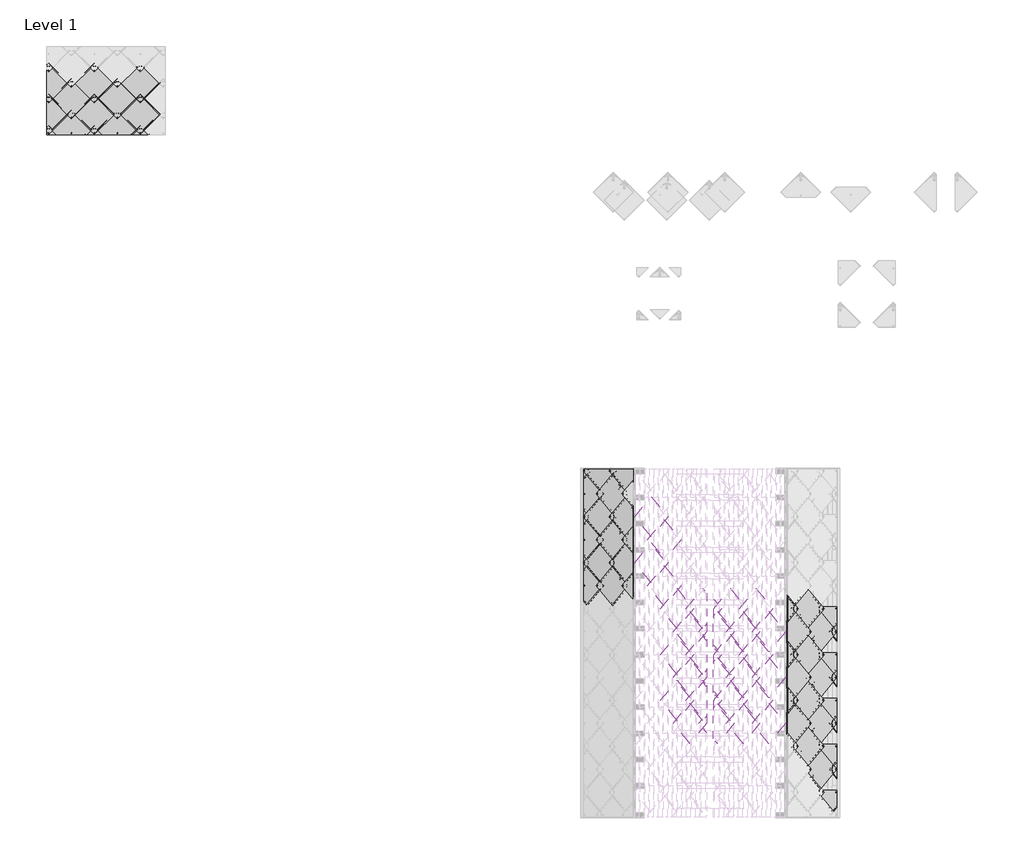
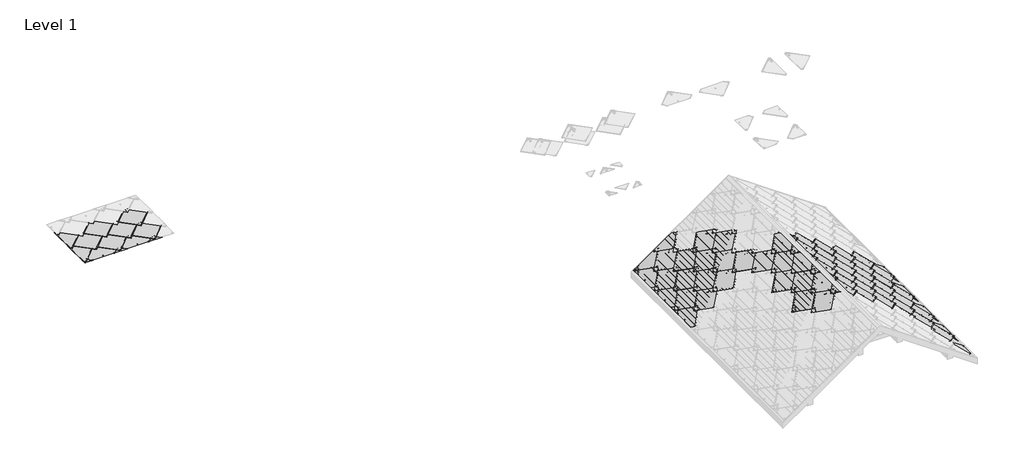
# One storey, part 5 of 6: 87 proxies.
"""IFC4 building model written with IfcOpenShell, lengths in millimetres."""

from ifc_helpers import new_model, si_unit, origin, place, context, project, spatial, transform, mapped, element, save
from components import generic_models_167ef6fe, corner_bottom_big_right_black_f07d85a3, corner_bottom_small_left_black_13c94d74, roofing_panels_sunstyle_tile_non_pv_shingle_non_pv_shingle_39b62107, roofing_panels_sunstyle_tile_shingle_bottom_shingle_bottom_b4a41e6e, roofing_panels_sunstyle_tile_shingle_bottom_small_shingle_441e44e2, roofing_panels_sunstyle_tile_shingle_left_shingle_left_black_68cb1fd1, roofing_panels_sunstyle_tile_shingle_top_shingle_top_black_3c2a6519, roofing_panels_sunstyle_tile_shingle_top_small_shingle_top_f7f51557

model = new_model("IFC4")

# Units and contexts
model_context = context("Model", 3, world=origin())
ifc_project = project(units=[si_unit("LENGTHUNIT", "METRE", prefix="MILLI")], contexts=[model_context])

# Site, building, storey
site = spatial("IfcSite", under=ifc_project)
building = spatial("IfcBuilding", under=site)
storey = spatial("IfcBuildingStorey", under=building, Name="Level 1", Elevation=0.0)

# Proxies
placement = place(None, origin())
generic_models_shape = generic_models_167ef6fe(model_context)
element("IfcBuildingElementProxy", 1, Name="Roofing_Solar-Panels_SunStyle_Shingle-Sunstyle : Shingle Sunstyle - Black", ObjectType="Roofing_Solar-Panels_SunStyle_Shingle-Sunstyle : Shingle Sunstyle - Black", at=placement, inside=storey, context=model_context, shape_type="MappedRepresentation", body=[
    mapped(generic_models_shape, transform((-1750.3642228, 3164.5951942, 759.9054535), x_axis=(0.0, -1.0, 0.0), y_axis=(0.8191520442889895, 0.0, 0.5735764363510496), z_axis=(-0.5735764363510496, 0.0, 0.8191520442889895))),
])
element("IfcBuildingElementProxy", 2, Name="Roofing_Solar-Panels_SunStyle_Shingle-Sunstyle : Shingle Sunstyle - Black", ObjectType="Roofing_Solar-Panels_SunStyle_Shingle-Sunstyle : Shingle Sunstyle - Black", at=placement, inside=storey, context=model_context, shape_type="MappedRepresentation", body=[
    mapped(generic_models_shape, transform((-1359.2191216, 2464.0951942, 1033.7882019), x_axis=(0.0, -1.0, 0.0), y_axis=(0.8191520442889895, 0.0, 0.5735764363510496), z_axis=(-0.5735764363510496, 0.0, 0.8191520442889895))),
])
element("IfcBuildingElementProxy", 3, Name="Roofing_Solar-Panels_SunStyle_Shingle-Sunstyle : Shingle Sunstyle - Black", ObjectType="Roofing_Solar-Panels_SunStyle_Shingle-Sunstyle : Shingle Sunstyle - Black", at=placement, inside=storey, context=model_context, shape_type="MappedRepresentation", body=[
    mapped(generic_models_shape, transform((-185.7838182, 1763.5951942, 1855.4364469), x_axis=(0.0, -1.0, 0.0), y_axis=(0.8191520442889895, 0.0, 0.5735764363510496), z_axis=(-0.5735764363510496, 0.0, 0.8191520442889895))),
])
element("IfcBuildingElementProxy", 4, Name="Roofing_Solar-Panels_SunStyle_Shingle-Sunstyle : Shingle Sunstyle - Black", ObjectType="Roofing_Solar-Panels_SunStyle_Shingle-Sunstyle : Shingle Sunstyle - Black", at=placement, inside=storey, context=model_context, shape_type="MappedRepresentation", body=[
    mapped(generic_models_shape, transform((-968.0740205, 1763.5951942, 1307.6709502), x_axis=(0.0, -1.0, 0.0), y_axis=(0.8191520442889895, 0.0, 0.5735764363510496), z_axis=(-0.5735764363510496, 0.0, 0.8191520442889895))),
])
element("IfcBuildingElementProxy", 5, Name="Roofing_Solar-Panels_SunStyle_Shingle-Sunstyle : Shingle Sunstyle - Black", ObjectType="Roofing_Solar-Panels_SunStyle_Shingle-Sunstyle : Shingle Sunstyle - Black", at=placement, inside=storey, context=model_context, shape_type="MappedRepresentation", body=[
    mapped(generic_models_shape, transform((-1750.3642228, 1763.5951942, 759.9054535), x_axis=(0.0, -1.0, 0.0), y_axis=(0.8191520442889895, 0.0, 0.5735764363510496), z_axis=(-0.5735764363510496, 0.0, 0.8191520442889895))),
])
element("IfcBuildingElementProxy", 6, Name="Roofing_Solar-Panels_SunStyle_Shingle-Sunstyle : Shingle Sunstyle - Black", ObjectType="Roofing_Solar-Panels_SunStyle_Shingle-Sunstyle : Shingle Sunstyle - Black", at=placement, inside=storey, context=model_context, shape_type="MappedRepresentation", body=[
    mapped(generic_models_shape, transform((-1359.2191216, 1063.0951942, 1033.7882019), x_axis=(0.0, -1.0, 0.0), y_axis=(0.8191520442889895, 0.0, 0.5735764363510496), z_axis=(-0.5735764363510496, 0.0, 0.8191520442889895))),
])
element("IfcBuildingElementProxy", 7, Name="Roofing_Solar-Panels_SunStyle_Shingle-Sunstyle : Shingle Sunstyle - Black", ObjectType="Roofing_Solar-Panels_SunStyle_Shingle-Sunstyle : Shingle Sunstyle - Black", at=placement, inside=storey, context=model_context, shape_type="MappedRepresentation", body=[
    mapped(generic_models_shape, transform((-576.9289193, 2464.0951942, 1581.5536986), x_axis=(0.0, -1.0, 0.0), y_axis=(0.8191520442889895, 0.0, 0.5735764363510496), z_axis=(-0.5735764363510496, 0.0, 0.8191520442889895))),
])
element("IfcBuildingElementProxy", 8, Name="Roofing_Solar-Panels_SunStyle_Shingle-Sunstyle : Shingle Sunstyle - Black", ObjectType="Roofing_Solar-Panels_SunStyle_Shingle-Sunstyle : Shingle Sunstyle - Black", at=placement, inside=storey, context=model_context, shape_type="MappedRepresentation", body=[
    mapped(generic_models_shape, transform((-576.9289193, 1063.0951942, 1581.5536986), x_axis=(0.0, -1.0, 0.0), y_axis=(0.8191520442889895, 0.0, 0.5735764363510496), z_axis=(-0.5735764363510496, 0.0, 0.8191520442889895))),
])
element("IfcBuildingElementProxy", 9, Name="Roofing_Solar-Panels_SunStyle_Shingle-Sunstyle : Shingle Sunstyle - Black", ObjectType="Roofing_Solar-Panels_SunStyle_Shingle-Sunstyle : Shingle Sunstyle - Black", at=placement, inside=storey, context=model_context, shape_type="MappedRepresentation", body=[
    mapped(generic_models_shape, transform((-185.7838182, 362.5951942, 1855.4364469), x_axis=(0.0, -1.0, 0.0), y_axis=(0.8191520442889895, 0.0, 0.5735764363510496), z_axis=(-0.5735764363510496, 0.0, 0.8191520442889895))),
])
element("IfcBuildingElementProxy", 10, Name="Roofing_Solar-Panels_SunStyle_Shingle-Sunstyle : Shingle Sunstyle - Black", ObjectType="Roofing_Solar-Panels_SunStyle_Shingle-Sunstyle : Shingle Sunstyle - Black", at=placement, inside=storey, context=model_context, shape_type="MappedRepresentation", body=[
    mapped(generic_models_shape, transform((-968.0740205, 362.5951942, 1307.6709502), x_axis=(0.0, -1.0, 0.0), y_axis=(0.8191520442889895, 0.0, 0.5735764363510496), z_axis=(-0.5735764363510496, 0.0, 0.8191520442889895))),
])
element("IfcBuildingElementProxy", 11, Name="Roofing_Solar-Panels_SunStyle_Shingle-Sunstyle : Shingle Sunstyle - Black", ObjectType="Roofing_Solar-Panels_SunStyle_Shingle-Sunstyle : Shingle Sunstyle - Black", at=placement, inside=storey, context=model_context, shape_type="MappedRepresentation", body=[
    mapped(generic_models_shape, transform((-1750.3642228, 362.5951942, 759.9054535), x_axis=(0.0, -1.0, 0.0), y_axis=(0.8191520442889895, 0.0, 0.5735764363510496), z_axis=(-0.5735764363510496, 0.0, 0.8191520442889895))),
])
element("IfcBuildingElementProxy", 12, Name="Roofing_Solar-Panels_SunStyle_Shingle-Sunstyle : Shingle Sunstyle - Black", ObjectType="Roofing_Solar-Panels_SunStyle_Shingle-Sunstyle : Shingle Sunstyle - Black", at=placement, inside=storey, context=model_context, shape_type="MappedRepresentation", body=[
    mapped(generic_models_shape, transform((205.361283, -337.9048058, 2129.3191953), x_axis=(0.0, -1.0, 0.0), y_axis=(0.8191520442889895, 0.0, 0.5735764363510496), z_axis=(-0.5735764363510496, 0.0, 0.8191520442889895))),
])
element("IfcBuildingElementProxy", 13, Name="Roofing_Solar-Panels_SunStyle_Shingle-Sunstyle : Shingle Sunstyle - Black", ObjectType="Roofing_Solar-Panels_SunStyle_Shingle-Sunstyle : Shingle Sunstyle - Black", at=placement, inside=storey, context=model_context, shape_type="MappedRepresentation", body=[
    mapped(generic_models_shape, transform((596.5063841, -1038.4048058, 2403.2019437), x_axis=(0.0, -1.0, 0.0), y_axis=(0.8191520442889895, 0.0, 0.5735764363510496), z_axis=(-0.5735764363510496, 0.0, 0.8191520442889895))),
])
element("IfcBuildingElementProxy", 14, Name="Roofing_Solar-Panels_SunStyle_Shingle-Sunstyle : Shingle Sunstyle - Black", ObjectType="Roofing_Solar-Panels_SunStyle_Shingle-Sunstyle : Shingle Sunstyle - Black", at=placement, inside=storey, context=model_context, shape_type="MappedRepresentation", body=[
    mapped(generic_models_shape, transform((596.5063841, -2439.4048058, 2403.2019437), x_axis=(0.0, -1.0, 0.0), y_axis=(0.8191520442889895, 0.0, 0.5735764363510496), z_axis=(-0.5735764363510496, 0.0, 0.8191520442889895))),
])
element("IfcBuildingElementProxy", 15, Name="Roofing_Solar-Panels_SunStyle_Shingle-Sunstyle : Shingle Sunstyle - Black", ObjectType="Roofing_Solar-Panels_SunStyle_Shingle-Sunstyle : Shingle Sunstyle - Black", at=placement, inside=storey, context=model_context, shape_type="MappedRepresentation", body=[
    mapped(generic_models_shape, transform((205.361283, -1738.9048058, 2129.3191953), x_axis=(0.0, -1.0, 0.0), y_axis=(0.8191520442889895, 0.0, 0.5735764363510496), z_axis=(-0.5735764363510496, 0.0, 0.8191520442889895))),
])
element("IfcBuildingElementProxy", 16, Name="Roofing_Solar-Panels_SunStyle_Shingle-Sunstyle : Shingle Sunstyle - Black", ObjectType="Roofing_Solar-Panels_SunStyle_Shingle-Sunstyle : Shingle Sunstyle - Black", at=placement, inside=storey, context=model_context, shape_type="MappedRepresentation", body=[
    mapped(generic_models_shape, transform((205.361283, -3139.9048058, 2129.3191953), x_axis=(0.0, -1.0, 0.0), y_axis=(0.8191520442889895, 0.0, 0.5735764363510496), z_axis=(-0.5735764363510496, 0.0, 0.8191520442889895))),
])
element("IfcBuildingElementProxy", 17, Name="Roofing_Solar-Panels_SunStyle_Shingle-Sunstyle : Shingle Sunstyle - Black", ObjectType="Roofing_Solar-Panels_SunStyle_Shingle-Sunstyle : Shingle Sunstyle - Black", at=placement, inside=storey, context=model_context, shape_type="MappedRepresentation", body=[
    mapped(generic_models_shape, transform((596.5063841, -3840.4048058, 2403.2019437), x_axis=(0.0, -1.0, 0.0), y_axis=(0.8191520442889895, 0.0, 0.5735764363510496), z_axis=(-0.5735764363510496, 0.0, 0.8191520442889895))),
])
element("IfcBuildingElementProxy", 18, Name="Roofing_Solar-Panels_SunStyle_Shingle-Sunstyle : Shingle Sunstyle - Black", ObjectType="Roofing_Solar-Panels_SunStyle_Shingle-Sunstyle : Shingle Sunstyle - Black", at=placement, inside=storey, context=model_context, shape_type="MappedRepresentation", body=[
    mapped(generic_models_shape, transform((-2141.5093239, 1063.0951942, 486.0227052), x_axis=(0.0, -1.0, 0.0), y_axis=(0.8191520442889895, 0.0, 0.5735764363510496), z_axis=(-0.5735764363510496, 0.0, 0.8191520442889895))),
])
element("IfcBuildingElementProxy", 19, Name="Roofing_Solar-Panels_SunStyle_Shingle-Sunstyle : Shingle Sunstyle - Black", ObjectType="Roofing_Solar-Panels_SunStyle_Shingle-Sunstyle : Shingle Sunstyle - Black", at=placement, inside=storey, context=model_context, shape_type="MappedRepresentation", body=[
    mapped(generic_models_shape, transform((-2141.5093239, 2464.0951942, 486.0227052), x_axis=(0.0, -1.0, 0.0), y_axis=(0.8191520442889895, 0.0, 0.5735764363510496), z_axis=(-0.5735764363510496, 0.0, 0.8191520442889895))),
])
element("IfcBuildingElementProxy", 20, Name="Roofing_Solar-Panels_SunStyle_Shingle-Sunstyle : Shingle Sunstyle - Black", ObjectType="Roofing_Solar-Panels_SunStyle_Shingle-Sunstyle : Shingle Sunstyle - Black", at=placement, inside=storey, context=model_context, shape_type="MappedRepresentation", body=[
    mapped(generic_models_shape, transform((1817.0514304, -3139.9048058, 2403.2019437), x_axis=(0.0, 1.0, 0.0), y_axis=(-0.8191520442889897, 0.0, 0.5735764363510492), z_axis=(0.5735764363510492, 0.0, 0.8191520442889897))),
])
element("IfcBuildingElementProxy", 21, Name="Roofing_Solar-Panels_SunStyle_Shingle-Sunstyle : Shingle Sunstyle - Black", ObjectType="Roofing_Solar-Panels_SunStyle_Shingle-Sunstyle : Shingle Sunstyle - Black", at=placement, inside=storey, context=model_context, shape_type="MappedRepresentation", body=[
    mapped(generic_models_shape, transform((1817.0514304, -1738.9048058, 2403.2019437), x_axis=(0.0, 1.0, 0.0), y_axis=(-0.8191520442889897, 0.0, 0.5735764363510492), z_axis=(0.5735764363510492, 0.0, 0.8191520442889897))),
])
element("IfcBuildingElementProxy", 22, Name="Roofing_Solar-Panels_SunStyle_Shingle-Sunstyle : Shingle Sunstyle - Black", ObjectType="Roofing_Solar-Panels_SunStyle_Shingle-Sunstyle : Shingle Sunstyle - Black", at=placement, inside=storey, context=model_context, shape_type="MappedRepresentation", body=[
    mapped(generic_models_shape, transform((1817.0514304, -337.9048058, 2403.2019437), x_axis=(0.0, 1.0, 0.0), y_axis=(-0.8191520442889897, 0.0, 0.5735764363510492), z_axis=(0.5735764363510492, 0.0, 0.8191520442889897))),
])
element("IfcBuildingElementProxy", 23, Name="Roofing_Solar-Panels_SunStyle_Shingle-Sunstyle : Shingle Sunstyle - Black", ObjectType="Roofing_Solar-Panels_SunStyle_Shingle-Sunstyle : Shingle Sunstyle - Black", at=placement, inside=storey, context=model_context, shape_type="MappedRepresentation", body=[
    mapped(generic_models_shape, transform((2208.1965315, -1038.4048058, 2129.3191953), x_axis=(0.0, 1.0, 0.0), y_axis=(-0.8191520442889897, 0.0, 0.5735764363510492), z_axis=(0.5735764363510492, 0.0, 0.8191520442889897))),
])
element("IfcBuildingElementProxy", 24, Name="Roofing_Solar-Panels_SunStyle_Shingle-Sunstyle : Shingle Sunstyle - Black", ObjectType="Roofing_Solar-Panels_SunStyle_Shingle-Sunstyle : Shingle Sunstyle - Black", at=placement, inside=storey, context=model_context, shape_type="MappedRepresentation", body=[
    mapped(generic_models_shape, transform((2208.1965315, -2439.4048058, 2129.3191953), x_axis=(0.0, 1.0, 0.0), y_axis=(-0.8191520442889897, 0.0, 0.5735764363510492), z_axis=(0.5735764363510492, 0.0, 0.8191520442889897))),
])
element("IfcBuildingElementProxy", 25, Name="Roofing_Solar-Panels_SunStyle_Shingle-Sunstyle : Shingle Sunstyle - Black", ObjectType="Roofing_Solar-Panels_SunStyle_Shingle-Sunstyle : Shingle Sunstyle - Black", at=placement, inside=storey, context=model_context, shape_type="MappedRepresentation", body=[
    mapped(generic_models_shape, transform((2208.1965315, -3840.4048058, 2129.3191953), x_axis=(0.0, 1.0, 0.0), y_axis=(-0.8191520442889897, 0.0, 0.5735764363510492), z_axis=(0.5735764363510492, 0.0, 0.8191520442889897))),
])
element("IfcBuildingElementProxy", 26, Name="Roofing_Solar-Panels_SunStyle_Shingle-Sunstyle : Shingle Sunstyle - Black", ObjectType="Roofing_Solar-Panels_SunStyle_Shingle-Sunstyle : Shingle Sunstyle - Black", at=placement, inside=storey, context=model_context, shape_type="MappedRepresentation", body=[
    mapped(generic_models_shape, transform((2599.3416327, -3139.9048058, 1855.4364469), x_axis=(0.0, 1.0, 0.0), y_axis=(-0.8191520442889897, 0.0, 0.5735764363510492), z_axis=(0.5735764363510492, 0.0, 0.8191520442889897))),
])
element("IfcBuildingElementProxy", 27, Name="Roofing_Solar-Panels_SunStyle_Shingle-Sunstyle : Shingle Sunstyle - Black", ObjectType="Roofing_Solar-Panels_SunStyle_Shingle-Sunstyle : Shingle Sunstyle - Black", at=placement, inside=storey, context=model_context, shape_type="MappedRepresentation", body=[
    mapped(generic_models_shape, transform((2599.3416327, -1738.9048058, 1855.4364469), x_axis=(0.0, 1.0, 0.0), y_axis=(-0.8191520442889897, 0.0, 0.5735764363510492), z_axis=(0.5735764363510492, 0.0, 0.8191520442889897))),
])
element("IfcBuildingElementProxy", 28, Name="Roofing_Solar-Panels_SunStyle_Shingle-Sunstyle : Shingle Sunstyle - Black", ObjectType="Roofing_Solar-Panels_SunStyle_Shingle-Sunstyle : Shingle Sunstyle - Black", at=placement, inside=storey, context=model_context, shape_type="MappedRepresentation", body=[
    mapped(generic_models_shape, transform((2599.3416327, -337.9048058, 1855.4364469), x_axis=(0.0, 1.0, 0.0), y_axis=(-0.8191520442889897, 0.0, 0.5735764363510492), z_axis=(0.5735764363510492, 0.0, 0.8191520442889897))),
])
element("IfcBuildingElementProxy", 29, Name="Roofing_Solar-Panels_SunStyle_Shingle-Sunstyle : Shingle Sunstyle - Black", ObjectType="Roofing_Solar-Panels_SunStyle_Shingle-Sunstyle : Shingle Sunstyle - Black", at=placement, inside=storey, context=model_context, shape_type="MappedRepresentation", body=[
    mapped(generic_models_shape, transform((2990.4867338, -1038.4048058, 1581.5536986), x_axis=(0.0, 1.0, 0.0), y_axis=(-0.8191520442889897, 0.0, 0.5735764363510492), z_axis=(0.5735764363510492, 0.0, 0.8191520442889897))),
])
element("IfcBuildingElementProxy", 30, Name="Roofing_Solar-Panels_SunStyle_Shingle-Sunstyle : Shingle Sunstyle - Black", ObjectType="Roofing_Solar-Panels_SunStyle_Shingle-Sunstyle : Shingle Sunstyle - Black", at=placement, inside=storey, context=model_context, shape_type="MappedRepresentation", body=[
    mapped(generic_models_shape, transform((2990.4867338, -2439.4048058, 1581.5536986), x_axis=(0.0, 1.0, 0.0), y_axis=(-0.8191520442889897, 0.0, 0.5735764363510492), z_axis=(0.5735764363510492, 0.0, 0.8191520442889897))),
])
element("IfcBuildingElementProxy", 31, Name="Roofing_Solar-Panels_SunStyle_Shingle-Sunstyle : Shingle Sunstyle - Black", ObjectType="Roofing_Solar-Panels_SunStyle_Shingle-Sunstyle : Shingle Sunstyle - Black", at=placement, inside=storey, context=model_context, shape_type="MappedRepresentation", body=[
    mapped(generic_models_shape, transform((2990.4867338, -3840.4048058, 1581.5536986), x_axis=(0.0, 1.0, 0.0), y_axis=(-0.8191520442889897, 0.0, 0.5735764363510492), z_axis=(0.5735764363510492, 0.0, 0.8191520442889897))),
])
element("IfcBuildingElementProxy", 32, Name="Roofing_Solar-Panels_SunStyle_Shingle-Sunstyle : Shingle Sunstyle - Black", ObjectType="Roofing_Solar-Panels_SunStyle_Shingle-Sunstyle : Shingle Sunstyle - Black", at=placement, inside=storey, context=model_context, shape_type="MappedRepresentation", body=[
    mapped(generic_models_shape, transform((4555.0671384, -5241.4048058, 486.0227052), x_axis=(0.0, 1.0, 0.0), y_axis=(-0.8191520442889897, 0.0, 0.5735764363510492), z_axis=(0.5735764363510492, 0.0, 0.8191520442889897))),
])
element("IfcBuildingElementProxy", 33, Name="Roofing_Solar-Panels_SunStyle_Shingle-Sunstyle : Shingle Sunstyle - Black", ObjectType="Roofing_Solar-Panels_SunStyle_Shingle-Sunstyle : Shingle Sunstyle - Black", at=placement, inside=storey, context=model_context, shape_type="MappedRepresentation", body=[
    mapped(generic_models_shape, transform((4163.9220373, -4540.9048058, 759.9054535), x_axis=(0.0, 1.0, 0.0), y_axis=(-0.8191520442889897, 0.0, 0.5735764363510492), z_axis=(0.5735764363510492, 0.0, 0.8191520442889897))),
])
element("IfcBuildingElementProxy", 34, Name="Roofing_Solar-Panels_SunStyle_Shingle-Sunstyle : Shingle Sunstyle - Black", ObjectType="Roofing_Solar-Panels_SunStyle_Shingle-Sunstyle : Shingle Sunstyle - Black", at=placement, inside=storey, context=model_context, shape_type="MappedRepresentation", body=[
    mapped(generic_models_shape, transform((4555.0671384, -3840.4048058, 486.0227052), x_axis=(0.0, 1.0, 0.0), y_axis=(-0.8191520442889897, 0.0, 0.5735764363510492), z_axis=(0.5735764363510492, 0.0, 0.8191520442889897))),
])
element("IfcBuildingElementProxy", 35, Name="Roofing_Solar-Panels_SunStyle_Shingle-Sunstyle : Shingle Sunstyle - Black", ObjectType="Roofing_Solar-Panels_SunStyle_Shingle-Sunstyle : Shingle Sunstyle - Black", at=placement, inside=storey, context=model_context, shape_type="MappedRepresentation", body=[
    mapped(generic_models_shape, transform((3772.7769361, -3840.4048058, 1033.7882019), x_axis=(0.0, 1.0, 0.0), y_axis=(-0.8191520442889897, 0.0, 0.5735764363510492), z_axis=(0.5735764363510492, 0.0, 0.8191520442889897))),
])
element("IfcBuildingElementProxy", 36, Name="Roofing_Solar-Panels_SunStyle_Shingle-Sunstyle : Shingle Sunstyle - Black", ObjectType="Roofing_Solar-Panels_SunStyle_Shingle-Sunstyle : Shingle Sunstyle - Black", at=placement, inside=storey, context=model_context, shape_type="MappedRepresentation", body=[
    mapped(generic_models_shape, transform((3381.631835, -3139.9048058, 1307.6709502), x_axis=(0.0, 1.0, 0.0), y_axis=(-0.8191520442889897, 0.0, 0.5735764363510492), z_axis=(0.5735764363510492, 0.0, 0.8191520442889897))),
])
element("IfcBuildingElementProxy", 37, Name="Roofing_Solar-Panels_SunStyle_Shingle-Sunstyle : Shingle Sunstyle - Black", ObjectType="Roofing_Solar-Panels_SunStyle_Shingle-Sunstyle : Shingle Sunstyle - Black", at=placement, inside=storey, context=model_context, shape_type="MappedRepresentation", body=[
    mapped(generic_models_shape, transform((4163.9220373, -3139.9048058, 759.9054535), x_axis=(0.0, 1.0, 0.0), y_axis=(-0.8191520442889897, 0.0, 0.5735764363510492), z_axis=(0.5735764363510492, 0.0, 0.8191520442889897))),
])
element("IfcBuildingElementProxy", 38, Name="Roofing_Solar-Panels_SunStyle_Shingle-Sunstyle : Shingle Sunstyle - Black", ObjectType="Roofing_Solar-Panels_SunStyle_Shingle-Sunstyle : Shingle Sunstyle - Black", at=placement, inside=storey, context=model_context, shape_type="MappedRepresentation", body=[
    mapped(generic_models_shape, transform((4555.0671384, -2439.4048058, 486.0227052), x_axis=(0.0, 1.0, 0.0), y_axis=(-0.8191520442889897, 0.0, 0.5735764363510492), z_axis=(0.5735764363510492, 0.0, 0.8191520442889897))),
])
element("IfcBuildingElementProxy", 39, Name="Roofing_Solar-Panels_SunStyle_Shingle-Sunstyle : Shingle Sunstyle - Black", ObjectType="Roofing_Solar-Panels_SunStyle_Shingle-Sunstyle : Shingle Sunstyle - Black", at=placement, inside=storey, context=model_context, shape_type="MappedRepresentation", body=[
    mapped(generic_models_shape, transform((3772.7769361, -2439.4048058, 1033.7882019), x_axis=(0.0, 1.0, 0.0), y_axis=(-0.8191520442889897, 0.0, 0.5735764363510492), z_axis=(0.5735764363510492, 0.0, 0.8191520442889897))),
])
element("IfcBuildingElementProxy", 40, Name="Roofing_Solar-Panels_SunStyle_Shingle-Sunstyle : Shingle Sunstyle - Black", ObjectType="Roofing_Solar-Panels_SunStyle_Shingle-Sunstyle : Shingle Sunstyle - Black", at=placement, inside=storey, context=model_context, shape_type="MappedRepresentation", body=[
    mapped(generic_models_shape, transform((3381.631835, -1738.9048058, 1307.6709502), x_axis=(0.0, 1.0, 0.0), y_axis=(-0.8191520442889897, 0.0, 0.5735764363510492), z_axis=(0.5735764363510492, 0.0, 0.8191520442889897))),
])
element("IfcBuildingElementProxy", 41, Name="Roofing_Solar-Panels_SunStyle_Shingle-Sunstyle : Shingle Sunstyle - Black", ObjectType="Roofing_Solar-Panels_SunStyle_Shingle-Sunstyle : Shingle Sunstyle - Black", at=placement, inside=storey, context=model_context, shape_type="MappedRepresentation", body=[
    mapped(generic_models_shape, transform((4163.9220373, -1738.9048058, 759.9054535), x_axis=(0.0, 1.0, 0.0), y_axis=(-0.8191520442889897, 0.0, 0.5735764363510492), z_axis=(0.5735764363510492, 0.0, 0.8191520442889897))),
])
element("IfcBuildingElementProxy", 42, Name="Roofing_Solar-Panels_SunStyle_Shingle-Sunstyle : Shingle Sunstyle - Black", ObjectType="Roofing_Solar-Panels_SunStyle_Shingle-Sunstyle : Shingle Sunstyle - Black", at=placement, inside=storey, context=model_context, shape_type="MappedRepresentation", body=[
    mapped(generic_models_shape, transform((3772.7769361, -1038.4048058, 1033.7882019), x_axis=(0.0, 1.0, 0.0), y_axis=(-0.8191520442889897, 0.0, 0.5735764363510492), z_axis=(0.5735764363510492, 0.0, 0.8191520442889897))),
])
element("IfcBuildingElementProxy", 43, Name="Roofing_Solar-Panels_SunStyle_Shingle-Sunstyle : Shingle Sunstyle - Black", ObjectType="Roofing_Solar-Panels_SunStyle_Shingle-Sunstyle : Shingle Sunstyle - Black", at=placement, inside=storey, context=model_context, shape_type="MappedRepresentation", body=[
    mapped(generic_models_shape, transform((4555.0671384, -1038.4048058, 486.0227052), x_axis=(0.0, 1.0, 0.0), y_axis=(-0.8191520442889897, 0.0, 0.5735764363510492), z_axis=(0.5735764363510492, 0.0, 0.8191520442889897))),
])
element("IfcBuildingElementProxy", 44, Name="Roofing_Solar-Panels_SunStyle_Shingle-Sunstyle : Shingle Sunstyle - Black", ObjectType="Roofing_Solar-Panels_SunStyle_Shingle-Sunstyle : Shingle Sunstyle - Black", at=placement, inside=storey, context=model_context, shape_type="MappedRepresentation", body=[
    mapped(generic_models_shape, transform((3381.631835, -337.9048058, 1307.6709502), x_axis=(0.0, 1.0, 0.0), y_axis=(-0.8191520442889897, 0.0, 0.5735764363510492), z_axis=(0.5735764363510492, 0.0, 0.8191520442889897))),
])
element("IfcBuildingElementProxy", 45, Name="Roofing_Solar-Panels_SunStyle_Shingle-Sunstyle : Shingle Sunstyle - Black", ObjectType="Roofing_Solar-Panels_SunStyle_Shingle-Sunstyle : Shingle Sunstyle - Black", at=placement, inside=storey, context=model_context, shape_type="MappedRepresentation", body=[
    mapped(generic_models_shape, transform((4163.9220373, -337.9048058, 759.9054535), x_axis=(0.0, 1.0, 0.0), y_axis=(-0.8191520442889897, 0.0, 0.5735764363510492), z_axis=(0.5735764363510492, 0.0, 0.8191520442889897))),
])
corner_bottom_big_right_black_shape = corner_bottom_big_right_black_f07d85a3(model_context)
element("IfcBuildingElementProxy", 46, Name="Roofing_Panels_SunStyle_Tile_Corner-Bottom-Big-Right : Corner Bottom Big Right - Black", ObjectType="Roofing_Panels_SunStyle_Tile_Corner-Bottom-Big-Right : Corner Bottom Big Right - Black", at=placement, inside=storey, context=model_context, shape_type="MappedRepresentation", body=[
    mapped(corner_bottom_big_right_black_shape, transform((4946.2122396, -337.9048058, 212.1399568), x_axis=(0.0, 1.0, 0.0), y_axis=(-0.8191520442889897, 0.0, 0.5735764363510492), z_axis=(0.5735764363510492, 0.0, 0.8191520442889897))),
])
element("IfcBuildingElementProxy", 47, Name="Roofing_Panels_SunStyle_Tile_Corner-Bottom-Big-Right : Corner Bottom Big Right - Black", ObjectType="Roofing_Panels_SunStyle_Tile_Corner-Bottom-Big-Right : Corner Bottom Big Right - Black", at=placement, inside=storey, context=model_context, shape_type="MappedRepresentation", body=[
    mapped(corner_bottom_big_right_black_shape, transform((4946.2122396, -1738.9048058, 212.1399568), x_axis=(0.0, 1.0, 0.0), y_axis=(-0.8191520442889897, 0.0, 0.5735764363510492), z_axis=(0.5735764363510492, 0.0, 0.8191520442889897))),
])
element("IfcBuildingElementProxy", 48, Name="Roofing_Panels_SunStyle_Tile_Corner-Bottom-Big-Right : Corner Bottom Big Right - Black", ObjectType="Roofing_Panels_SunStyle_Tile_Corner-Bottom-Big-Right : Corner Bottom Big Right - Black", at=placement, inside=storey, context=model_context, shape_type="MappedRepresentation", body=[
    mapped(corner_bottom_big_right_black_shape, transform((4946.2122396, -3139.9048058, 212.1399568), x_axis=(0.0, 1.0, 0.0), y_axis=(-0.8191520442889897, 0.0, 0.5735764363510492), z_axis=(0.5735764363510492, 0.0, 0.8191520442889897))),
])
element("IfcBuildingElementProxy", 49, Name="Roofing_Panels_SunStyle_Tile_Corner-Bottom-Big-Right : Corner Bottom Big Right - Black", ObjectType="Roofing_Panels_SunStyle_Tile_Corner-Bottom-Big-Right : Corner Bottom Big Right - Black", at=placement, inside=storey, context=model_context, shape_type="MappedRepresentation", body=[
    mapped(corner_bottom_big_right_black_shape, transform((4946.2122396, -4540.9048058, 212.1399568), x_axis=(0.0, 1.0, 0.0), y_axis=(-0.8191520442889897, 0.0, 0.5735764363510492), z_axis=(0.5735764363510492, 0.0, 0.8191520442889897))),
])
element("IfcBuildingElementProxy", 50, Name="Roofing_Panels_SunStyle_Tile_Corner-Bottom-Big-Right : Corner Bottom Big Right - Black", ObjectType="Roofing_Panels_SunStyle_Tile_Corner-Bottom-Big-Right : Corner Bottom Big Right - Black", at=placement, inside=storey, context=model_context, shape_type="MappedRepresentation", body=[
    mapped(corner_bottom_big_right_black_shape, transform((4946.2122396, -5941.9048058, 212.1399568), x_axis=(0.0, 1.0, 0.0), y_axis=(-0.8191520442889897, 0.0, 0.5735764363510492), z_axis=(0.5735764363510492, 0.0, 0.8191520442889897))),
])
corner_bottom_small_left_black_shape = corner_bottom_small_left_black_13c94d74(model_context)
element("IfcBuildingElementProxy", 51, Name="Roofing_Panels_SunStyle_Tile_Corner-Bottom-Small-Left : Corner Bottom Small Left - Black", ObjectType="Roofing_Panels_SunStyle_Tile_Corner-Bottom-Small-Left : Corner Bottom Small Left - Black", at=placement, inside=storey, context=model_context, shape_type="MappedRepresentation", body=[
    mapped(corner_bottom_small_left_black_shape, transform((-2923.7995262, 3865.0951942, -61.7427916), x_axis=(0.0, -1.0, 0.0), y_axis=(0.8191520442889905, 0.0, 0.5735764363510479), z_axis=(-0.5735764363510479, 0.0, 0.8191520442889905))),
])
element("IfcBuildingElementProxy", 52, Name="Roofing_Panels_SunStyle_Tile_Corner-Bottom-Small-Left : Corner Bottom Small Left - Black", ObjectType="Roofing_Panels_SunStyle_Tile_Corner-Bottom-Small-Left : Corner Bottom Small Left - Black", at=placement, inside=storey, context=model_context, shape_type="MappedRepresentation", body=[
    mapped(corner_bottom_small_left_black_shape, transform((-18987.0193526, 13803.8076789, 0.0), x_axis=(1.0, 0.0, 0.0), y_axis=(0.0, 1.0, 0.0), z_axis=(0.0, 0.0, 1.0))),
])
roofing_panels_sunstyle_tile_non_pv_shingle_non_pv_shingle_shape = roofing_panels_sunstyle_tile_non_pv_shingle_non_pv_shingle_39b62107(model_context)
element("IfcBuildingElementProxy", 53, Name="Roofing_Panels_SunStyle_Tile_Non-PV-Shingle : Non PV Shingle - Black", ObjectType="Roofing_Panels_SunStyle_Tile_Non-PV-Shingle : Non PV Shingle - Black", at=placement, inside=storey, context=model_context, shape_type="MappedRepresentation", body=[
    mapped(roofing_panels_sunstyle_tile_non_pv_shingle_non_pv_shingle_shape, transform((-16185.0193526, 15713.8076789, 0.0), x_axis=(1.0, 0.0, 0.0), y_axis=(0.0, 1.0, 0.0), z_axis=(0.0, 0.0, 1.0))),
])
element("IfcBuildingElementProxy", 54, Name="Roofing_Panels_SunStyle_Tile_Non-PV-Shingle : Non PV Shingle - Black", ObjectType="Roofing_Panels_SunStyle_Tile_Non-PV-Shingle : Non PV Shingle - Black", at=placement, inside=storey, context=model_context, shape_type="MappedRepresentation", body=[
    mapped(roofing_panels_sunstyle_tile_non_pv_shingle_non_pv_shingle_shape, transform((-17586.0193526, 15713.8076789, 0.0), x_axis=(1.0, 0.0, 0.0), y_axis=(0.0, 1.0, 0.0), z_axis=(0.0, 0.0, 1.0))),
])
element("IfcBuildingElementProxy", 55, Name="Roofing_Panels_SunStyle_Tile_Non-PV-Shingle : Non PV Shingle - Black", ObjectType="Roofing_Panels_SunStyle_Tile_Non-PV-Shingle : Non PV Shingle - Black", at=placement, inside=storey, context=model_context, shape_type="MappedRepresentation", body=[
    mapped(roofing_panels_sunstyle_tile_non_pv_shingle_non_pv_shingle_shape, transform((-18286.5193526, 15236.3076789, 0.0), x_axis=(1.0, 0.0, 0.0), y_axis=(0.0, 1.0, 0.0), z_axis=(0.0, 0.0, 1.0))),
])
element("IfcBuildingElementProxy", 56, Name="Roofing_Panels_SunStyle_Tile_Non-PV-Shingle : Non PV Shingle - Black", ObjectType="Roofing_Panels_SunStyle_Tile_Non-PV-Shingle : Non PV Shingle - Black", at=placement, inside=storey, context=model_context, shape_type="MappedRepresentation", body=[
    mapped(roofing_panels_sunstyle_tile_non_pv_shingle_non_pv_shingle_shape, transform((-17586.0193526, 14758.8076789, 0.0), x_axis=(1.0, 0.0, 0.0), y_axis=(0.0, 1.0, 0.0), z_axis=(0.0, 0.0, 1.0))),
])
element("IfcBuildingElementProxy", 57, Name="Roofing_Panels_SunStyle_Tile_Non-PV-Shingle : Non PV Shingle - Black", ObjectType="Roofing_Panels_SunStyle_Tile_Non-PV-Shingle : Non PV Shingle - Black", at=placement, inside=storey, context=model_context, shape_type="MappedRepresentation", body=[
    mapped(roofing_panels_sunstyle_tile_non_pv_shingle_non_pv_shingle_shape, transform((-16885.5193526, 15236.3076789, 0.0), x_axis=(1.0, 0.0, 0.0), y_axis=(0.0, 1.0, 0.0), z_axis=(0.0, 0.0, 1.0))),
])
element("IfcBuildingElementProxy", 58, Name="Roofing_Panels_SunStyle_Tile_Non-PV-Shingle : Non PV Shingle - Black", ObjectType="Roofing_Panels_SunStyle_Tile_Non-PV-Shingle : Non PV Shingle - Black", at=placement, inside=storey, context=model_context, shape_type="MappedRepresentation", body=[
    mapped(roofing_panels_sunstyle_tile_non_pv_shingle_non_pv_shingle_shape, transform((-16185.0193526, 14758.8076789, 0.0), x_axis=(1.0, 0.0, 0.0), y_axis=(0.0, 1.0, 0.0), z_axis=(0.0, 0.0, 1.0))),
])
roofing_panels_sunstyle_tile_shingle_bottom_shingle_bottom_shape = roofing_panels_sunstyle_tile_shingle_bottom_shingle_bottom_b4a41e6e(model_context)
element("IfcBuildingElementProxy", 59, Name="Roofing_Panels_SunStyle_Tile_Shingle-Bottom : Shingle Bottom - Black", ObjectType="Roofing_Panels_SunStyle_Tile_Shingle-Bottom : Shingle Bottom - Black", at=placement, inside=storey, context=model_context, shape_type="MappedRepresentation", body=[
    mapped(roofing_panels_sunstyle_tile_shingle_bottom_shingle_bottom_shape, transform((-2532.654425, 362.5951942, 212.1399568), x_axis=(0.0, -1.0, 0.0), y_axis=(0.8191520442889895, 0.0, 0.5735764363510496), z_axis=(-0.5735764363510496, 0.0, 0.8191520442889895))),
])
element("IfcBuildingElementProxy", 60, Name="Roofing_Panels_SunStyle_Tile_Shingle-Bottom : Shingle Bottom - Black", ObjectType="Roofing_Panels_SunStyle_Tile_Shingle-Bottom : Shingle Bottom - Black", at=placement, inside=storey, context=model_context, shape_type="MappedRepresentation", body=[
    mapped(roofing_panels_sunstyle_tile_shingle_bottom_shingle_bottom_shape, transform((-2532.654425, 1763.5951942, 212.1399568), x_axis=(0.0, -1.0, 0.0), y_axis=(0.8191520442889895, 0.0, 0.5735764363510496), z_axis=(-0.5735764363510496, 0.0, 0.8191520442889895))),
])
element("IfcBuildingElementProxy", 61, Name="Roofing_Panels_SunStyle_Tile_Shingle-Bottom : Shingle Bottom - Black", ObjectType="Roofing_Panels_SunStyle_Tile_Shingle-Bottom : Shingle Bottom - Black", at=placement, inside=storey, context=model_context, shape_type="MappedRepresentation", body=[
    mapped(roofing_panels_sunstyle_tile_shingle_bottom_shingle_bottom_shape, transform((-2532.654425, 3164.5951942, 212.1399568), x_axis=(0.0, -1.0, 0.0), y_axis=(0.8191520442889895, 0.0, 0.5735764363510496), z_axis=(-0.5735764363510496, 0.0, 0.8191520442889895))),
])
element("IfcBuildingElementProxy", 62, Name="Roofing_Panels_SunStyle_Tile_Shingle-Bottom : Shingle Bottom - Black", ObjectType="Roofing_Panels_SunStyle_Tile_Shingle-Bottom : Shingle Bottom - Black", at=placement, inside=storey, context=model_context, shape_type="MappedRepresentation", body=[
    mapped(roofing_panels_sunstyle_tile_shingle_bottom_shingle_bottom_shape, transform((-18286.5193526, 14281.3076789, 0.0), x_axis=(1.0, 0.0, 0.0), y_axis=(0.0, 1.0, 0.0), z_axis=(0.0, 0.0, 1.0))),
])
element("IfcBuildingElementProxy", 63, Name="Roofing_Panels_SunStyle_Tile_Shingle-Bottom : Shingle Bottom - Black", ObjectType="Roofing_Panels_SunStyle_Tile_Shingle-Bottom : Shingle Bottom - Black", at=placement, inside=storey, context=model_context, shape_type="MappedRepresentation", body=[
    mapped(roofing_panels_sunstyle_tile_shingle_bottom_shingle_bottom_shape, transform((-16885.5193526, 14281.3076789, 0.0), x_axis=(1.0, 0.0, 0.0), y_axis=(0.0, 1.0, 0.0), z_axis=(0.0, 0.0, 1.0))),
])
roofing_panels_sunstyle_tile_shingle_bottom_small_shingle_shape = roofing_panels_sunstyle_tile_shingle_bottom_small_shingle_441e44e2(model_context)
element("IfcBuildingElementProxy", 64, Name="Roofing_Panels_SunStyle_Tile_Shingle-Bottom-Small : Shingle Bottom Small - Black", ObjectType="Roofing_Panels_SunStyle_Tile_Shingle-Bottom-Small : Shingle Bottom Small - Black", at=placement, inside=storey, context=model_context, shape_type="MappedRepresentation", body=[
    mapped(roofing_panels_sunstyle_tile_shingle_bottom_small_shingle_shape, transform((-2923.7995262, 2464.0951942, -61.7427916), x_axis=(0.0, -1.0, 0.0), y_axis=(0.8191520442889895, 0.0, 0.5735764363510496), z_axis=(-0.5735764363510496, 0.0, 0.8191520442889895))),
])
element("IfcBuildingElementProxy", 65, Name="Roofing_Panels_SunStyle_Tile_Shingle-Bottom-Small : Shingle Bottom Small - Black", ObjectType="Roofing_Panels_SunStyle_Tile_Shingle-Bottom-Small : Shingle Bottom Small - Black", at=placement, inside=storey, context=model_context, shape_type="MappedRepresentation", body=[
    mapped(roofing_panels_sunstyle_tile_shingle_bottom_small_shingle_shape, transform((-2923.7995262, 1063.0951942, -61.7427916), x_axis=(0.0, -1.0, 0.0), y_axis=(0.8191520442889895, 0.0, 0.5735764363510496), z_axis=(-0.5735764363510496, 0.0, 0.8191520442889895))),
])
element("IfcBuildingElementProxy", 66, Name="Roofing_Panels_SunStyle_Tile_Shingle-Bottom-Small : Shingle Bottom Small - Black", ObjectType="Roofing_Panels_SunStyle_Tile_Shingle-Bottom-Small : Shingle Bottom Small - Black", at=placement, inside=storey, context=model_context, shape_type="MappedRepresentation", body=[
    mapped(roofing_panels_sunstyle_tile_shingle_bottom_small_shingle_shape, transform((5337.3573407, -5241.4048058, -61.7427916), x_axis=(0.0, 1.0, 0.0), y_axis=(-0.8191520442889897, 0.0, 0.5735764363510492), z_axis=(0.5735764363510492, 0.0, 0.8191520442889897))),
])
element("IfcBuildingElementProxy", 67, Name="Roofing_Panels_SunStyle_Tile_Shingle-Bottom-Small : Shingle Bottom Small - Black", ObjectType="Roofing_Panels_SunStyle_Tile_Shingle-Bottom-Small : Shingle Bottom Small - Black", at=placement, inside=storey, context=model_context, shape_type="MappedRepresentation", body=[
    mapped(roofing_panels_sunstyle_tile_shingle_bottom_small_shingle_shape, transform((5337.3573407, -3840.4048058, -61.7427916), x_axis=(0.0, 1.0, 0.0), y_axis=(-0.8191520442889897, 0.0, 0.5735764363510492), z_axis=(0.5735764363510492, 0.0, 0.8191520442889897))),
])
element("IfcBuildingElementProxy", 68, Name="Roofing_Panels_SunStyle_Tile_Shingle-Bottom-Small : Shingle Bottom Small - Black", ObjectType="Roofing_Panels_SunStyle_Tile_Shingle-Bottom-Small : Shingle Bottom Small - Black", at=placement, inside=storey, context=model_context, shape_type="MappedRepresentation", body=[
    mapped(roofing_panels_sunstyle_tile_shingle_bottom_small_shingle_shape, transform((5337.3573407, -2439.4048058, -61.7427916), x_axis=(0.0, 1.0, 0.0), y_axis=(-0.8191520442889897, 0.0, 0.5735764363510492), z_axis=(0.5735764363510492, 0.0, 0.8191520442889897))),
])
element("IfcBuildingElementProxy", 69, Name="Roofing_Panels_SunStyle_Tile_Shingle-Bottom-Small : Shingle Bottom Small - Black", ObjectType="Roofing_Panels_SunStyle_Tile_Shingle-Bottom-Small : Shingle Bottom Small - Black", at=placement, inside=storey, context=model_context, shape_type="MappedRepresentation", body=[
    mapped(roofing_panels_sunstyle_tile_shingle_bottom_small_shingle_shape, transform((5337.3573407, -1038.4048058, -61.7427916), x_axis=(0.0, 1.0, 0.0), y_axis=(-0.8191520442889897, 0.0, 0.5735764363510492), z_axis=(0.5735764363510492, 0.0, 0.8191520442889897))),
])
element("IfcBuildingElementProxy", 70, Name="Roofing_Panels_SunStyle_Tile_Shingle-Bottom-Small : Shingle Bottom Small - Black", ObjectType="Roofing_Panels_SunStyle_Tile_Shingle-Bottom-Small : Shingle Bottom Small - Black", at=placement, inside=storey, context=model_context, shape_type="MappedRepresentation", body=[
    mapped(roofing_panels_sunstyle_tile_shingle_bottom_small_shingle_shape, transform((-17586.0193526, 13803.8076789, 0.0), x_axis=(1.0, 0.0, 0.0), y_axis=(0.0, 1.0, 0.0), z_axis=(0.0, 0.0, 1.0))),
])
element("IfcBuildingElementProxy", 71, Name="Roofing_Panels_SunStyle_Tile_Shingle-Bottom-Small : Shingle Bottom Small - Black", ObjectType="Roofing_Panels_SunStyle_Tile_Shingle-Bottom-Small : Shingle Bottom Small - Black", at=placement, inside=storey, context=model_context, shape_type="MappedRepresentation", body=[
    mapped(roofing_panels_sunstyle_tile_shingle_bottom_small_shingle_shape, transform((-16185.0193526, 13803.8076789, 0.0), x_axis=(1.0, 0.0, 0.0), y_axis=(0.0, 1.0, 0.0), z_axis=(0.0, 0.0, 1.0))),
])
roofing_panels_sunstyle_tile_shingle_left_shingle_left_black_shape = roofing_panels_sunstyle_tile_shingle_left_shingle_left_black_68cb1fd1(model_context)
element("IfcBuildingElementProxy", 72, Name="Roofing_Panels_SunStyle_Tile_Shingle-Left : Shingle Left - Black", ObjectType="Roofing_Panels_SunStyle_Tile_Shingle-Left : Shingle Left - Black", at=placement, inside=storey, context=model_context, shape_type="MappedRepresentation", body=[
    mapped(roofing_panels_sunstyle_tile_shingle_left_shingle_left_black_shape, transform((-1359.2191216, 3865.0951942, 1033.7882019), x_axis=(0.0, -1.0, 0.0), y_axis=(0.8191520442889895, 0.0, 0.5735764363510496), z_axis=(-0.5735764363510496, 0.0, 0.8191520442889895))),
])
element("IfcBuildingElementProxy", 73, Name="Roofing_Panels_SunStyle_Tile_Shingle-Left : Shingle Left - Black", ObjectType="Roofing_Panels_SunStyle_Tile_Shingle-Left : Shingle Left - Black", at=placement, inside=storey, context=model_context, shape_type="MappedRepresentation", body=[
    mapped(roofing_panels_sunstyle_tile_shingle_left_shingle_left_black_shape, transform((-2141.5093239, 3865.0951942, 486.0227052), x_axis=(0.0, -1.0, 0.0), y_axis=(0.8191520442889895, 0.0, 0.5735764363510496), z_axis=(-0.5735764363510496, 0.0, 0.8191520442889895))),
])
element("IfcBuildingElementProxy", 74, Name="Roofing_Panels_SunStyle_Tile_Shingle-Left : Shingle Left - Black", ObjectType="Roofing_Panels_SunStyle_Tile_Shingle-Left : Shingle Left - Black", at=placement, inside=storey, context=model_context, shape_type="MappedRepresentation", body=[
    mapped(roofing_panels_sunstyle_tile_shingle_left_shingle_left_black_shape, transform((-18987.0193526, 14758.8076789, 0.0), x_axis=(1.0, 0.0, 0.0), y_axis=(0.0, 1.0, 0.0), z_axis=(0.0, 0.0, 1.0))),
])
element("IfcBuildingElementProxy", 75, Name="Roofing_Panels_SunStyle_Tile_Shingle-Left : Shingle Left - Black", ObjectType="Roofing_Panels_SunStyle_Tile_Shingle-Left : Shingle Left - Black", at=placement, inside=storey, context=model_context, shape_type="MappedRepresentation", body=[
    mapped(roofing_panels_sunstyle_tile_shingle_left_shingle_left_black_shape, transform((-18987.0193526, 15713.8076789, 0.0), x_axis=(1.0, 0.0, 0.0), y_axis=(0.0, 1.0, 0.0), z_axis=(0.0, 0.0, 1.0))),
])
roofing_panels_sunstyle_tile_shingle_top_shingle_top_black_shape = roofing_panels_sunstyle_tile_shingle_top_shingle_top_black_3c2a6519(model_context)
element("IfcBuildingElementProxy", 76, Name="Roofing_Panels_SunStyle_Tile_Shingle-Top : Shingle Top - Black", ObjectType="Roofing_Panels_SunStyle_Tile_Shingle-Top : Shingle Top - Black", at=placement, inside=storey, context=model_context, shape_type="MappedRepresentation", body=[
    mapped(roofing_panels_sunstyle_tile_shingle_top_shingle_top_black_shape, transform((987.6514853, -337.9048058, 2677.084692), x_axis=(0.0, -1.0, 0.0), y_axis=(0.8191520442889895, 0.0, 0.5735764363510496), z_axis=(-0.5735764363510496, 0.0, 0.8191520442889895))),
])
element("IfcBuildingElementProxy", 77, Name="Roofing_Panels_SunStyle_Tile_Shingle-Top : Shingle Top - Black", ObjectType="Roofing_Panels_SunStyle_Tile_Shingle-Top : Shingle Top - Black", at=placement, inside=storey, context=model_context, shape_type="MappedRepresentation", body=[
    mapped(roofing_panels_sunstyle_tile_shingle_top_shingle_top_black_shape, transform((987.6514853, -1738.9048058, 2677.084692), x_axis=(0.0, -1.0, 0.0), y_axis=(0.8191520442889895, 0.0, 0.5735764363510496), z_axis=(-0.5735764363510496, 0.0, 0.8191520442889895))),
])
element("IfcBuildingElementProxy", 78, Name="Roofing_Panels_SunStyle_Tile_Shingle-Top : Shingle Top - Black", ObjectType="Roofing_Panels_SunStyle_Tile_Shingle-Top : Shingle Top - Black", at=placement, inside=storey, context=model_context, shape_type="MappedRepresentation", body=[
    mapped(roofing_panels_sunstyle_tile_shingle_top_shingle_top_black_shape, transform((987.6514853, -3139.9048058, 2677.084692), x_axis=(0.0, -1.0, 0.0), y_axis=(0.8191520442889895, 0.0, 0.5735764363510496), z_axis=(-0.5735764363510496, 0.0, 0.8191520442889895))),
])
element("IfcBuildingElementProxy", 79, Name="Roofing_Panels_SunStyle_Tile_Shingle-Top : Shingle Top - Black", ObjectType="Roofing_Panels_SunStyle_Tile_Shingle-Top : Shingle Top - Black", at=placement, inside=storey, context=model_context, shape_type="MappedRepresentation", body=[
    mapped(roofing_panels_sunstyle_tile_shingle_top_shingle_top_black_shape, transform((1425.9063292, -3840.4048058, 2677.084692), x_axis=(0.0, 1.0, 0.0), y_axis=(-0.8191520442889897, 0.0, 0.5735764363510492), z_axis=(0.5735764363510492, 0.0, 0.8191520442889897))),
])
element("IfcBuildingElementProxy", 80, Name="Roofing_Panels_SunStyle_Tile_Shingle-Top : Shingle Top - Black", ObjectType="Roofing_Panels_SunStyle_Tile_Shingle-Top : Shingle Top - Black", at=placement, inside=storey, context=model_context, shape_type="MappedRepresentation", body=[
    mapped(roofing_panels_sunstyle_tile_shingle_top_shingle_top_black_shape, transform((1425.9063292, -2439.4048058, 2677.084692), x_axis=(0.0, 1.0, 0.0), y_axis=(-0.8191520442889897, 0.0, 0.5735764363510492), z_axis=(0.5735764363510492, 0.0, 0.8191520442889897))),
])
element("IfcBuildingElementProxy", 81, Name="Roofing_Panels_SunStyle_Tile_Shingle-Top : Shingle Top - Black", ObjectType="Roofing_Panels_SunStyle_Tile_Shingle-Top : Shingle Top - Black", at=placement, inside=storey, context=model_context, shape_type="MappedRepresentation", body=[
    mapped(roofing_panels_sunstyle_tile_shingle_top_shingle_top_black_shape, transform((1425.9063292, -1038.4048058, 2677.084692), x_axis=(0.0, 1.0, 0.0), y_axis=(-0.8191520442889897, 0.0, 0.5735764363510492), z_axis=(0.5735764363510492, 0.0, 0.8191520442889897))),
])
roofing_panels_sunstyle_tile_shingle_top_small_shingle_top_shape = roofing_panels_sunstyle_tile_shingle_top_small_shingle_top_f7f51557(model_context)
element("IfcBuildingElementProxy", 82, Name="Roofing_Panels_SunStyle_Tile_Shingle-Top-Small : Shingle Top Small - Black", ObjectType="Roofing_Panels_SunStyle_Tile_Shingle-Top-Small : Shingle Top Small - Black", at=placement, inside=storey, context=model_context, shape_type="MappedRepresentation", body=[
    mapped(roofing_panels_sunstyle_tile_shingle_top_small_shingle_top_shape, transform((1378.7965864, -3840.4048058, 2950.9674404), x_axis=(0.0, -1.0, 0.0), y_axis=(0.8191520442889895, 0.0, 0.5735764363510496), z_axis=(-0.5735764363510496, 0.0, 0.8191520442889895))),
])
element("IfcBuildingElementProxy", 83, Name="Roofing_Panels_SunStyle_Tile_Shingle-Top-Small : Shingle Top Small - Black", ObjectType="Roofing_Panels_SunStyle_Tile_Shingle-Top-Small : Shingle Top Small - Black", at=placement, inside=storey, context=model_context, shape_type="MappedRepresentation", body=[
    mapped(roofing_panels_sunstyle_tile_shingle_top_small_shingle_top_shape, transform((1378.7965864, -2439.4048058, 2950.9674404), x_axis=(0.0, -1.0, 0.0), y_axis=(0.8191520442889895, 0.0, 0.5735764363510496), z_axis=(-0.5735764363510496, 0.0, 0.8191520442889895))),
])
element("IfcBuildingElementProxy", 84, Name="Roofing_Panels_SunStyle_Tile_Shingle-Top-Small : Shingle Top Small - Black", ObjectType="Roofing_Panels_SunStyle_Tile_Shingle-Top-Small : Shingle Top Small - Black", at=placement, inside=storey, context=model_context, shape_type="MappedRepresentation", body=[
    mapped(roofing_panels_sunstyle_tile_shingle_top_small_shingle_top_shape, transform((1378.7965864, -1038.4048058, 2950.9674404), x_axis=(0.0, -1.0, 0.0), y_axis=(0.8191520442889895, 0.0, 0.5735764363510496), z_axis=(-0.5735764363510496, 0.0, 0.8191520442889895))),
])
element("IfcBuildingElementProxy", 85, Name="Roofing_Panels_SunStyle_Tile_Shingle-Top-Small : Shingle Top Small - Black", ObjectType="Roofing_Panels_SunStyle_Tile_Shingle-Top-Small : Shingle Top Small - Black", at=placement, inside=storey, context=model_context, shape_type="MappedRepresentation", body=[
    mapped(roofing_panels_sunstyle_tile_shingle_top_small_shingle_top_shape, transform((1034.7612281, -3139.9048058, 2950.9674404), x_axis=(0.0, 1.0, 0.0), y_axis=(-0.8191520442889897, 0.0, 0.5735764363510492), z_axis=(0.5735764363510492, 0.0, 0.8191520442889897))),
])
element("IfcBuildingElementProxy", 86, Name="Roofing_Panels_SunStyle_Tile_Shingle-Top-Small : Shingle Top Small - Black", ObjectType="Roofing_Panels_SunStyle_Tile_Shingle-Top-Small : Shingle Top Small - Black", at=placement, inside=storey, context=model_context, shape_type="MappedRepresentation", body=[
    mapped(roofing_panels_sunstyle_tile_shingle_top_small_shingle_top_shape, transform((1034.7612281, -1738.9048058, 2950.9674404), x_axis=(0.0, 1.0, 0.0), y_axis=(-0.8191520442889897, 0.0, 0.5735764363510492), z_axis=(0.5735764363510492, 0.0, 0.8191520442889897))),
])
element("IfcBuildingElementProxy", 87, Name="Roofing_Panels_SunStyle_Tile_Shingle-Top-Small : Shingle Top Small - Black", ObjectType="Roofing_Panels_SunStyle_Tile_Shingle-Top-Small : Shingle Top Small - Black", at=placement, inside=storey, context=model_context, shape_type="MappedRepresentation", body=[
    mapped(roofing_panels_sunstyle_tile_shingle_top_small_shingle_top_shape, transform((1034.7612281, -337.9048058, 2950.9674404), x_axis=(0.0, 1.0, 0.0), y_axis=(-0.8191520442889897, 0.0, 0.5735764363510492), z_axis=(0.5735764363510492, 0.0, 0.8191520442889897))),
])

save(model, "model.ifc")
